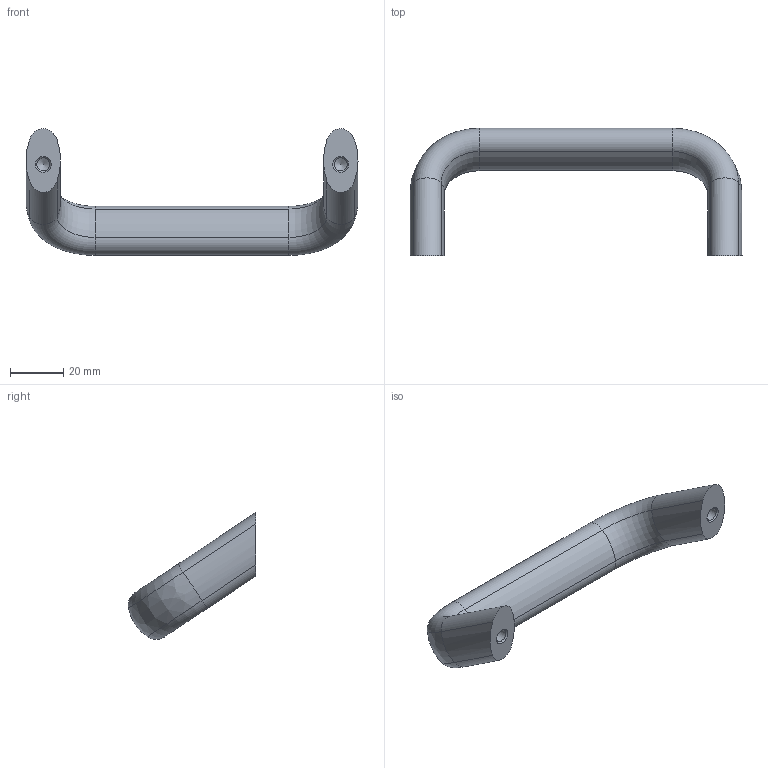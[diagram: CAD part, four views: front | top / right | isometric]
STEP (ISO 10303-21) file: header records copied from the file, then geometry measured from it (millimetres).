
FILE_DESCRIPTION( ( 'STEP AP203' ), '1' );
FILE_NAME( 'C:/Temp/Ganter_Step_05_03_2020/data/1_2/gn_565_2/Inclined cabinet „U“ handle GN 565.2-20-112-A-SW.stp', '2020-03-05T10:09:46', ( 'License CC BY-ND 4.0' ), ( 'CADENAS' ), ' ', 'PARTsolutions', ' ' );
FILE_SCHEMA( ( 'CONFIG_CONTROL_DESIGN' ) );
Length unit declared in the file: millimetre
Products named in the file (1): _Inclined cabinet U handle GN 565.2-20-112-A-SW
Bounding box: 125 x 47.99 x 47.77 mm (x, y, z)
Volume: 39649 mm3; surface area: 11010.5 mm2
Topology: 1 solids, 1 shells, 28 faces, 58 edges, 32 vertices
Faces by surface type: cylinder 14, torus 6, cone 4, bspline 2, plane 2
Full cylindrical faces by diameter (mm): 4.917 x2
Entity records: 766 total; most frequent: DIRECTION 142, CARTESIAN_POINT 141, ORIENTED_EDGE 100, AXIS2_PLACEMENT_3D 65, EDGE_CURVE 50, EDGE_LOOP 34, VERTEX_POINT 32, FACE_OUTER_BOUND 30
